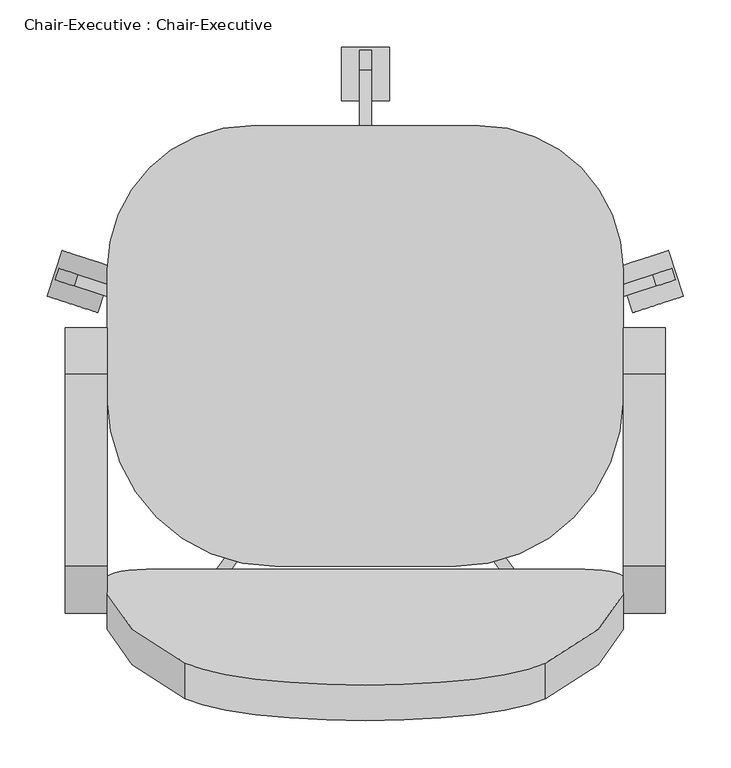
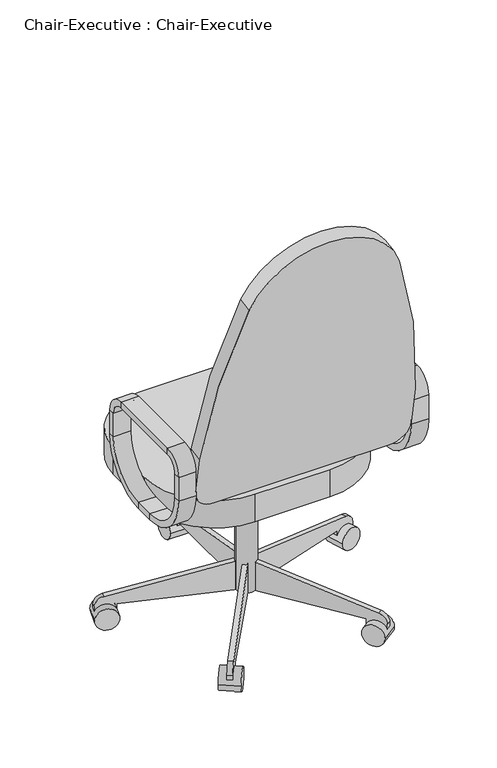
"""IFC4 building model written with IfcOpenShell, lengths in millimetres: furniture geometry, Chair-Executive : Chair-Executive."""

from ifc_helpers import new_model, si_unit, point, frame, frame_2d, origin, place, context, project, spatial, polyline, circle_curve, trimmed, segment, composite_curve, outline, extrude, source, transform, mapped, element, save
from ifc_brep_helpers import plane_surface, cylinder_surface, revolved_surface, advanced_brep


def chair_executive_chair_executive_8d69e98c(model_context):
    return source(origin(), model_context, "Body", "SolidModel", [
        advanced_brep(
        [(-176.5091803, -217.7873012, 546.1), (-176.5091803, -108.0540984, 436.3667972), (-176.5091803, -108.0540984, 420.4917972), (-176.5091803, -233.6623012, 546.1), (-132.0591803, -217.7873012, 546.1), (-132.0591803, -108.0540984, 436.3667972), (-132.0591803, -233.6623012, 546.1), (-132.0591803, -108.0540984, 420.4917972), (-176.5091803, -233.6623012, 609.6), (-176.5091803, -217.7873012, 609.6), (-132.0591803, -217.7873012, 609.6), (-132.0591803, -233.6623012, 609.6), (-176.5091803, -184.2540984, 643.1332028), (-176.5091803, -184.2540984, 659.0082028), (-132.0591803, -184.2540984, 643.1332028), (-132.0591803, -184.2540984, 659.0082028), (-176.5091803, 18.9459016, 659.0082028), (-176.5091803, 18.9459016, 643.1332028), (-132.0591803, 18.9459016, 643.1332028), (-132.0591803, 18.9459016, 659.0082028), (-176.5091803, 52.4791044, 609.6), (-176.5091803, 68.3541044, 609.6), (-132.0591803, 52.4791044, 609.6), (-132.0591803, 68.3541044, 609.6), (-176.5091803, 68.3541044, 546.1), (-176.5091803, 52.4791044, 546.1), (-132.0591803, 52.4791044, 546.1), (-132.0591803, 68.3541044, 546.1), (-176.5091803, -57.2540984, 436.3667972), (-176.5091803, -57.2540984, 420.4917972), (-132.0591803, -57.2540984, 436.3667972), (-132.0591803, -57.2540984, 420.4917972)],
        [
            (0, 1, circle_curve(frame((-176.5091803, -108.0540984, 546.1), z_axis=(1.0, 0.0, 0.0), x_axis=(0.0, 0.0, -1.0)), 109.7332028)),
            (1, 2),
            (2, 3, circle_curve(frame((-176.5091803, -108.0540984, 546.1), z_axis=(-1.0, 0.0, 0.0), x_axis=(0.0, 0.0, -1.0)), 125.6082028)),
            (3, 0),
            (4, 5, circle_curve(frame((-132.0591803, -108.0540984, 546.1), z_axis=(1.0, 0.0, 0.0), x_axis=(0.0, 0.0, -1.0)), 109.7332028)),
            (5, 1),
            (0, 4),
            (6, 7, circle_curve(frame((-132.0591803, -108.0540984, 546.1), z_axis=(1.0, 0.0, 0.0), x_axis=(0.0, 0.0, -1.0)), 125.6082028)),
            (7, 5),
            (4, 6),
            (2, 7),
            (6, 3),
            (3, 8),
            (8, 9),
            (9, 0),
            (9, 10),
            (10, 4),
            (10, 11),
            (11, 6),
            (11, 8),
            (12, 9, circle_curve(frame((-176.5091803, -184.2540984, 609.6), z_axis=(1.0, 0.0, 0.0), x_axis=(0.0, -1.0, 0.0)), 33.5332028)),
            (8, 13, circle_curve(frame((-176.5091803, -184.2540984, 609.6), z_axis=(-1.0, 0.0, 0.0), x_axis=(0.0, -1.0, 0.0)), 49.4082028)),
            (13, 12),
            (14, 10, circle_curve(frame((-132.0591803, -184.2540984, 609.6), z_axis=(1.0, 0.0, 0.0), x_axis=(0.0, -1.0, 0.0)), 33.5332028)),
            (12, 14),
            (15, 11, circle_curve(frame((-132.0591803, -184.2540984, 609.6), z_axis=(1.0, 0.0, 0.0), x_axis=(0.0, -1.0, 0.0)), 49.4082028)),
            (14, 15),
            (15, 13),
            (13, 16),
            (16, 17),
            (17, 12),
            (17, 18),
            (18, 14),
            (18, 19),
            (19, 15),
            (19, 16),
            (20, 17, circle_curve(frame((-176.5091803, 18.9459016, 609.6), z_axis=(1.0, 0.0, 0.0), x_axis=(0.0, 0.0, 1.0)), 33.5332028)),
            (16, 21, circle_curve(frame((-176.5091803, 18.9459016, 609.6), z_axis=(-1.0, 0.0, 0.0), x_axis=(0.0, 0.0, 1.0)), 49.4082028)),
            (21, 20),
            (22, 18, circle_curve(frame((-132.0591803, 18.9459016, 609.6), z_axis=(1.0, 0.0, 0.0), x_axis=(0.0, 0.0, 1.0)), 33.5332028)),
            (20, 22),
            (23, 19, circle_curve(frame((-132.0591803, 18.9459016, 609.6), z_axis=(1.0, 0.0, 0.0), x_axis=(0.0, 0.0, 1.0)), 49.4082028)),
            (22, 23),
            (23, 21),
            (21, 24),
            (24, 25),
            (25, 20),
            (25, 26),
            (26, 22),
            (26, 27),
            (27, 23),
            (27, 24),
            (28, 25, circle_curve(frame((-176.5091803, -57.2540984, 546.1), z_axis=(1.0, 0.0, 0.0), x_axis=(0.0, 1.0, 0.0)), 109.7332028)),
            (24, 29, circle_curve(frame((-176.5091803, -57.2540984, 546.1), z_axis=(-1.0, 0.0, 0.0), x_axis=(0.0, 1.0, 0.0)), 125.6082028)),
            (29, 28),
            (30, 26, circle_curve(frame((-132.0591803, -57.2540984, 546.1), z_axis=(1.0, 0.0, 0.0), x_axis=(0.0, 1.0, 0.0)), 109.7332028)),
            (28, 30),
            (31, 27, circle_curve(frame((-132.0591803, -57.2540984, 546.1), z_axis=(1.0, 0.0, 0.0), x_axis=(0.0, 1.0, 0.0)), 125.6082028)),
            (30, 31),
            (31, 29),
            (29, 2),
            (1, 28),
            (5, 30),
            (7, 31),
        ],
        [
            plane_surface(frame((-176.5091803, -108.0540984, 546.1), z_axis=(-1.0, 0.0, 0.0), x_axis=(0.0, 0.0, -1.0))),
            revolved_surface(polyline([(-176.5091803, -108.0540984, 436.3667972), (-132.0591803, -108.0540984, 436.3667972)]), (-132.0591803, -108.0540984, 546.1), (-1.0, 0.0, 0.0)),
            plane_surface(frame((-132.0591803, -108.0540984, 546.1), z_axis=(1.0, 0.0, 0.0), x_axis=(0.0, 0.0, -1.0))),
            cylinder_surface(frame((-132.0591803, -108.0540984, 546.1), z_axis=(-1.0, 0.0, 0.0), x_axis=(0.0, 0.0, -1.0)), 125.6082028),
            plane_surface(frame((-176.5091803, -233.6623012, 546.1), z_axis=(-1.0, 0.0, 0.0), x_axis=(0.0, 0.0, 1.0))),
            plane_surface(frame((-176.5091803, -217.7873012, 546.1), z_axis=(0.0, 1.0, 0.0), x_axis=(0.0, 0.0, 1.0))),
            plane_surface(frame((-132.0591803, -217.7873012, 546.1), z_axis=(1.0, 0.0, 0.0), x_axis=(0.0, 0.0, 1.0))),
            plane_surface(frame((-132.0591803, -233.6623012, 546.1), z_axis=(0.0, -1.0, 0.0), x_axis=(0.0, 0.0, 1.0))),
            plane_surface(frame((-176.5091803, -184.2540984, 609.6), z_axis=(-1.0, 0.0, 0.0), x_axis=(0.0, -1.0, 0.0))),
            revolved_surface(polyline([(-176.5091803, -217.7873012, 609.6), (-132.0591803, -217.7873012, 609.6)]), (-132.0591803, -184.2540984, 609.6), (-1.0, 0.0, 0.0)),
            plane_surface(frame((-132.0591803, -184.2540984, 609.6), z_axis=(1.0, 0.0, 0.0), x_axis=(0.0, -1.0, 0.0))),
            cylinder_surface(frame((-132.0591803, -184.2540984, 609.6), z_axis=(-1.0, 0.0, 0.0), x_axis=(0.0, -1.0, 0.0)), 49.4082028),
            plane_surface(frame((-176.5091803, -184.2540984, 659.0082028), z_axis=(-1.0, 0.0, 0.0), x_axis=(0.0, 1.0, 0.0))),
            plane_surface(frame((-176.5091803, -184.2540984, 643.1332028), z_axis=(0.0, 0.0, -1.0), x_axis=(0.0, 1.0, 0.0))),
            plane_surface(frame((-132.0591803, -184.2540984, 643.1332028), z_axis=(1.0, 0.0, 0.0), x_axis=(0.0, 1.0, 0.0))),
            plane_surface(frame((-132.0591803, -184.2540984, 659.0082028), z_axis=(0.0, 0.0, 1.0), x_axis=(0.0, 1.0, 0.0))),
            plane_surface(frame((-176.5091803, 18.9459016, 609.6), z_axis=(-1.0, 0.0, 0.0), x_axis=(0.0, 0.0, 1.0))),
            revolved_surface(polyline([(-176.5091803, 18.9459016, 643.1332028), (-132.0591803, 18.9459016, 643.1332028)]), (-132.0591803, 18.9459016, 609.6), (-1.0, 0.0, 0.0)),
            plane_surface(frame((-132.0591803, 18.9459016, 609.6), z_axis=(1.0, 0.0, 0.0), x_axis=(0.0, 0.0, 1.0))),
            cylinder_surface(frame((-132.0591803, 18.9459016, 609.6), z_axis=(-1.0, 0.0, 0.0), x_axis=(0.0, 0.0, 1.0)), 49.4082028),
            plane_surface(frame((-176.5091803, 68.3541044, 609.6), z_axis=(-1.0, 0.0, 0.0), x_axis=(0.0, 0.0, -1.0))),
            plane_surface(frame((-176.5091803, 52.4791044, 609.6), z_axis=(0.0, -1.0, 0.0), x_axis=(0.0, 0.0, -1.0))),
            plane_surface(frame((-132.0591803, 52.4791044, 609.6), z_axis=(1.0, 0.0, 0.0), x_axis=(0.0, 0.0, -1.0))),
            plane_surface(frame((-132.0591803, 68.3541044, 609.6), z_axis=(0.0, 1.0, 0.0), x_axis=(0.0, 0.0, -1.0))),
            plane_surface(frame((-176.5091803, -57.2540984, 546.1), z_axis=(-1.0, 0.0, 0.0), x_axis=(0.0, 1.0, 0.0))),
            revolved_surface(polyline([(-176.5091803, 52.479104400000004, 546.1), (-132.0591803, 52.479104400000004, 546.1)]), (-132.0591803, -57.2540984, 546.1), (-1.0, 0.0, 0.0)),
            plane_surface(frame((-132.0591803, -57.2540984, 546.1), z_axis=(1.0, 0.0, 0.0), x_axis=(0.0, 1.0, 0.0))),
            cylinder_surface(frame((-132.0591803, -57.2540984, 546.1), z_axis=(-1.0, 0.0, 0.0), x_axis=(0.0, 1.0, 0.0)), 125.6082028),
            plane_surface(frame((-176.5091803, -57.2540984, 420.4917972), z_axis=(-1.0, 0.0, 0.0), x_axis=(0.0, -1.0, 0.0))),
            plane_surface(frame((-176.5091803, -57.2540984, 436.3667972), z_axis=(0.0, 0.0, 1.0), x_axis=(0.0, -1.0, 0.0))),
            plane_surface(frame((-132.0591803, -57.2540984, 436.3667972), z_axis=(1.0, 0.0, 0.0), x_axis=(0.0, -1.0, 0.0))),
            plane_surface(frame((-132.0591803, -57.2540984, 420.4917972), z_axis=(0.0, 0.0, -1.0), x_axis=(0.0, -1.0, 0.0))),
        ],
        [
            (0, [[1, 2, 3, 4]]),
            (1, [[5, 6, -1, 7]]),
            (2, [[8, 9, -5, 10]]),
            (3, [[-3, 11, -8, 12]]),
            (4, [[-4, 13, 14, 15]]),
            (5, [[-7, -15, 16, 17]]),
            (6, [[-10, -17, 18, 19]]),
            (7, [[-12, -19, 20, -13]]),
            (8, [[21, -14, 22, 23]]),
            (9, [[24, -16, -21, 25]]),
            (10, [[26, -18, -24, 27]]),
            (11, [[-22, -20, -26, 28]]),
            (12, [[-23, 29, 30, 31]]),
            (13, [[-25, -31, 32, 33]]),
            (14, [[-27, -33, 34, 35]]),
            (15, [[-28, -35, 36, -29]]),
            (16, [[37, -30, 38, 39]]),
            (17, [[40, -32, -37, 41]]),
            (18, [[42, -34, -40, 43]]),
            (19, [[-38, -36, -42, 44]]),
            (20, [[-39, 45, 46, 47]]),
            (21, [[-41, -47, 48, 49]]),
            (22, [[-43, -49, 50, 51]]),
            (23, [[-44, -51, 52, -45]]),
            (24, [[53, -46, 54, 55]]),
            (25, [[56, -48, -53, 57]]),
            (26, [[58, -50, -56, 59]]),
            (27, [[-54, -52, -58, 60]]),
            (28, [[-55, 61, -2, 62]]),
            (29, [[-57, -62, -6, 63]]),
            (30, [[-59, -63, -9, 64]]),
            (31, [[-60, -64, -11, -61]]),
        ],
    ),
        advanced_brep(
        [(414.0408197, -233.6623012, 546.1), (414.0408197, -108.0540984, 420.4917972), (458.4908197, -108.0540984, 420.4917972), (458.4908197, -233.6623012, 546.1), (414.0408197, -217.7873012, 546.1), (414.0408197, -108.0540984, 436.3667972), (458.4908197, -217.7873012, 546.1), (458.4908197, -108.0540984, 436.3667972), (458.4908197, -233.6623012, 609.6), (414.0408197, -233.6623012, 609.6), (414.0408197, -217.7873012, 609.6), (458.4908197, -217.7873012, 609.6), (414.0408197, -184.2540984, 659.0082028), (458.4908197, -184.2540984, 659.0082028), (414.0408197, -184.2540984, 643.1332028), (458.4908197, -184.2540984, 643.1332028), (458.4908197, 18.9459016, 659.0082028), (414.0408197, 18.9459016, 659.0082028), (414.0408197, 18.9459016, 643.1332028), (458.4908197, 18.9459016, 643.1332028), (414.0408197, 68.3541044, 609.6), (458.4908197, 68.3541044, 609.6), (414.0408197, 52.4791044, 609.6), (458.4908197, 52.4791044, 609.6), (458.4908197, 68.3541044, 546.1), (414.0408197, 68.3541044, 546.1), (414.0408197, 52.4791044, 546.1), (458.4908197, 52.4791044, 546.1), (414.0408197, -57.2540984, 420.4917972), (458.4908197, -57.2540984, 420.4917972), (414.0408197, -57.2540984, 436.3667972), (458.4908197, -57.2540984, 436.3667972)],
        [
            (0, 1, circle_curve(frame((414.0408197, -108.0540984, 546.1), z_axis=(1.0, 0.0, 0.0), x_axis=(0.0, 0.0, -1.0)), 125.6082028)),
            (1, 2),
            (2, 3, circle_curve(frame((458.4908197, -108.0540984, 546.1), z_axis=(-1.0, 0.0, 0.0), x_axis=(0.0, 0.0, -1.0)), 125.6082028)),
            (3, 0),
            (4, 5, circle_curve(frame((414.0408197, -108.0540984, 546.1), z_axis=(1.0, 0.0, 0.0), x_axis=(0.0, 0.0, -1.0)), 109.7332028)),
            (5, 1),
            (0, 4),
            (6, 7, circle_curve(frame((458.4908197, -108.0540984, 546.1), z_axis=(1.0, 0.0, 0.0), x_axis=(0.0, 0.0, -1.0)), 109.7332028)),
            (7, 5),
            (4, 6),
            (2, 7),
            (6, 3),
            (3, 8),
            (8, 9),
            (9, 0),
            (9, 10),
            (10, 4),
            (10, 11),
            (11, 6),
            (11, 8),
            (12, 9, circle_curve(frame((414.0408197, -184.2540984, 609.6), z_axis=(1.0, 0.0, 0.0), x_axis=(0.0, -1.0, 0.0)), 49.4082028)),
            (8, 13, circle_curve(frame((458.4908197, -184.2540984, 609.6), z_axis=(-1.0, 0.0, 0.0), x_axis=(0.0, -1.0, 0.0)), 49.4082028)),
            (13, 12),
            (14, 10, circle_curve(frame((414.0408197, -184.2540984, 609.6), z_axis=(1.0, 0.0, 0.0), x_axis=(0.0, -1.0, 0.0)), 33.5332028)),
            (12, 14),
            (15, 11, circle_curve(frame((458.4908197, -184.2540984, 609.6), z_axis=(1.0, 0.0, 0.0), x_axis=(0.0, -1.0, 0.0)), 33.5332028)),
            (14, 15),
            (15, 13),
            (13, 16),
            (16, 17),
            (17, 12),
            (17, 18),
            (18, 14),
            (18, 19),
            (19, 15),
            (19, 16),
            (20, 17, circle_curve(frame((414.0408197, 18.9459016, 609.6), z_axis=(1.0, 0.0, 0.0), x_axis=(0.0, 0.0, 1.0)), 49.4082028)),
            (16, 21, circle_curve(frame((458.4908197, 18.9459016, 609.6), z_axis=(-1.0, 0.0, 0.0), x_axis=(0.0, 0.0, 1.0)), 49.4082028)),
            (21, 20),
            (22, 18, circle_curve(frame((414.0408197, 18.9459016, 609.6), z_axis=(1.0, 0.0, 0.0), x_axis=(0.0, 0.0, 1.0)), 33.5332028)),
            (20, 22),
            (23, 19, circle_curve(frame((458.4908197, 18.9459016, 609.6), z_axis=(1.0, 0.0, 0.0), x_axis=(0.0, 0.0, 1.0)), 33.5332028)),
            (22, 23),
            (23, 21),
            (21, 24),
            (24, 25),
            (25, 20),
            (25, 26),
            (26, 22),
            (26, 27),
            (27, 23),
            (27, 24),
            (28, 25, circle_curve(frame((414.0408197, -57.2540984, 546.1), z_axis=(1.0, 0.0, 0.0), x_axis=(0.0, 1.0, 0.0)), 125.6082028)),
            (24, 29, circle_curve(frame((458.4908197, -57.2540984, 546.1), z_axis=(-1.0, 0.0, 0.0), x_axis=(0.0, 1.0, 0.0)), 125.6082028)),
            (29, 28),
            (30, 26, circle_curve(frame((414.0408197, -57.2540984, 546.1), z_axis=(1.0, 0.0, 0.0), x_axis=(0.0, 1.0, 0.0)), 109.7332028)),
            (28, 30),
            (31, 27, circle_curve(frame((458.4908197, -57.2540984, 546.1), z_axis=(1.0, 0.0, 0.0), x_axis=(0.0, 1.0, 0.0)), 109.7332028)),
            (30, 31),
            (31, 29),
            (29, 2),
            (1, 28),
            (5, 30),
            (7, 31),
        ],
        [
            cylinder_surface(frame((414.0408197, -108.0540984, 546.1), z_axis=(-1.0, 0.0, 0.0), x_axis=(0.0, 0.0, -1.0)), 125.6082028),
            plane_surface(frame((414.0408197, -108.0540984, 546.1), z_axis=(-1.0, 0.0, 0.0), x_axis=(0.0, 0.0, -1.0))),
            revolved_surface(polyline([(414.0408197, -108.0540984, 436.3667972), (458.4908197, -108.0540984, 436.3667972)]), (414.0408197, -108.0540984, 546.1), (-1.0, 0.0, 0.0)),
            plane_surface(frame((458.4908197, -108.0540984, 546.1), z_axis=(1.0, 0.0, 0.0), x_axis=(0.0, 0.0, -1.0))),
            plane_surface(frame((458.4908197, -233.6623012, 546.1), z_axis=(0.0, -1.0, 0.0), x_axis=(0.0, 0.0, 1.0))),
            plane_surface(frame((414.0408197, -233.6623012, 546.1), z_axis=(-1.0, 0.0, 0.0), x_axis=(0.0, 0.0, 1.0))),
            plane_surface(frame((414.0408197, -217.7873012, 546.1), z_axis=(0.0, 1.0, 0.0), x_axis=(0.0, 0.0, 1.0))),
            plane_surface(frame((458.4908197, -217.7873012, 546.1), z_axis=(1.0, 0.0, 0.0), x_axis=(0.0, 0.0, 1.0))),
            cylinder_surface(frame((414.0408197, -184.2540984, 609.6), z_axis=(-1.0, 0.0, 0.0), x_axis=(0.0, -1.0, 0.0)), 49.4082028),
            plane_surface(frame((414.0408197, -184.2540984, 609.6), z_axis=(-1.0, 0.0, 0.0), x_axis=(0.0, -1.0, 0.0))),
            revolved_surface(polyline([(414.0408197, -217.7873012, 609.6), (458.4908197, -217.7873012, 609.6)]), (414.0408197, -184.2540984, 609.6), (-1.0, 0.0, 0.0)),
            plane_surface(frame((458.4908197, -184.2540984, 609.6), z_axis=(1.0, 0.0, 0.0), x_axis=(0.0, -1.0, 0.0))),
            plane_surface(frame((458.4908197, -184.2540984, 659.0082028), z_axis=(0.0, 0.0, 1.0), x_axis=(0.0, 1.0, 0.0))),
            plane_surface(frame((414.0408197, -184.2540984, 659.0082028), z_axis=(-1.0, 0.0, 0.0), x_axis=(0.0, 1.0, 0.0))),
            plane_surface(frame((414.0408197, -184.2540984, 643.1332028), z_axis=(0.0, 0.0, -1.0), x_axis=(0.0, 1.0, 0.0))),
            plane_surface(frame((458.4908197, -184.2540984, 643.1332028), z_axis=(1.0, 0.0, 0.0), x_axis=(0.0, 1.0, 0.0))),
            cylinder_surface(frame((414.0408197, 18.9459016, 609.6), z_axis=(-1.0, 0.0, 0.0), x_axis=(0.0, 0.0, 1.0)), 49.4082028),
            plane_surface(frame((414.0408197, 18.9459016, 609.6), z_axis=(-1.0, 0.0, 0.0), x_axis=(0.0, 0.0, 1.0))),
            revolved_surface(polyline([(414.0408197, 18.9459016, 643.1332028), (458.4908197, 18.9459016, 643.1332028)]), (414.0408197, 18.9459016, 609.6), (-1.0, 0.0, 0.0)),
            plane_surface(frame((458.4908197, 18.9459016, 609.6), z_axis=(1.0, 0.0, 0.0), x_axis=(0.0, 0.0, 1.0))),
            plane_surface(frame((458.4908197, 68.3541044, 609.6), z_axis=(0.0, 1.0, 0.0), x_axis=(0.0, 0.0, -1.0))),
            plane_surface(frame((414.0408197, 68.3541044, 609.6), z_axis=(-1.0, 0.0, 0.0), x_axis=(0.0, 0.0, -1.0))),
            plane_surface(frame((414.0408197, 52.4791044, 609.6), z_axis=(0.0, -1.0, 0.0), x_axis=(0.0, 0.0, -1.0))),
            plane_surface(frame((458.4908197, 52.4791044, 609.6), z_axis=(1.0, 0.0, 0.0), x_axis=(0.0, 0.0, -1.0))),
            cylinder_surface(frame((414.0408197, -57.2540984, 546.1), z_axis=(-1.0, 0.0, 0.0), x_axis=(0.0, 1.0, 0.0)), 125.6082028),
            plane_surface(frame((414.0408197, -57.2540984, 546.1), z_axis=(-1.0, 0.0, 0.0), x_axis=(0.0, 1.0, 0.0))),
            revolved_surface(polyline([(414.0408197, 52.479104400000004, 546.1), (458.4908197, 52.479104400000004, 546.1)]), (414.0408197, -57.2540984, 546.1), (-1.0, 0.0, 0.0)),
            plane_surface(frame((458.4908197, -57.2540984, 546.1), z_axis=(1.0, 0.0, 0.0), x_axis=(0.0, 1.0, 0.0))),
            plane_surface(frame((458.4908197, -57.2540984, 420.4917972), z_axis=(0.0, 0.0, -1.0), x_axis=(0.0, -1.0, 0.0))),
            plane_surface(frame((414.0408197, -57.2540984, 420.4917972), z_axis=(-1.0, 0.0, 0.0), x_axis=(0.0, -1.0, 0.0))),
            plane_surface(frame((414.0408197, -57.2540984, 436.3667972), z_axis=(0.0, 0.0, 1.0), x_axis=(0.0, -1.0, 0.0))),
            plane_surface(frame((458.4908197, -57.2540984, 436.3667972), z_axis=(1.0, 0.0, 0.0), x_axis=(0.0, -1.0, 0.0))),
        ],
        [
            (0, [[1, 2, 3, 4]]),
            (1, [[5, 6, -1, 7]]),
            (2, [[8, 9, -5, 10]]),
            (3, [[-3, 11, -8, 12]]),
            (4, [[-4, 13, 14, 15]]),
            (5, [[-7, -15, 16, 17]]),
            (6, [[-10, -17, 18, 19]]),
            (7, [[-12, -19, 20, -13]]),
            (8, [[21, -14, 22, 23]]),
            (9, [[24, -16, -21, 25]]),
            (10, [[26, -18, -24, 27]]),
            (11, [[-22, -20, -26, 28]]),
            (12, [[-23, 29, 30, 31]]),
            (13, [[-25, -31, 32, 33]]),
            (14, [[-27, -33, 34, 35]]),
            (15, [[-28, -35, 36, -29]]),
            (16, [[37, -30, 38, 39]]),
            (17, [[40, -32, -37, 41]]),
            (18, [[42, -34, -40, 43]]),
            (19, [[-38, -36, -42, 44]]),
            (20, [[-39, 45, 46, 47]]),
            (21, [[-41, -47, 48, 49]]),
            (22, [[-43, -49, 50, 51]]),
            (23, [[-44, -51, 52, -45]]),
            (24, [[53, -46, 54, 55]]),
            (25, [[56, -48, -53, 57]]),
            (26, [[58, -50, -56, 59]]),
            (27, [[-54, -52, -58, 60]]),
            (28, [[-55, 61, -2, 62]]),
            (29, [[-57, -62, -6, 63]]),
            (30, [[-59, -63, -9, 64]]),
            (31, [[-60, -64, -11, -61]]),
        ],
    ),
        extrude(outline(composite_curve([segment(trimmed(circle_curve(frame_2d((0.0, -50.8)), 50.8), [point((0.0, 0.0))], [point((50.8, -50.8))], False, "CARTESIAN"), True, "CONTINUOUS"), segment(polyline([(50.8, -50.8), (50.8, -152.4)]), True, "CONTINUOUS"), segment(trimmed(circle_curve(frame_2d((-1471.2021854, -74.3913617)), 1524.0), [point((50.8, -152.4))], [point((-31.75, -574.9444618))], False, "CARTESIAN"), True, "CONTINUOUS"), segment(trimmed(circle_curve(frame_2d((-222.25, -504.2338544)), 203.2), [point((-31.75, -574.9444618))], [point((-412.75, -574.9444618))], False, "CARTESIAN"), True, "CONTINUOUS"), segment(trimmed(circle_curve(frame_2d((1026.7021854, -74.3913617)), 1524.0), [point((-412.75, -574.9444618))], [point((-495.3, -152.4))], False, "CARTESIAN"), True, "CONTINUOUS"), segment(polyline([(-495.3, -152.4), (-495.3, -50.8)]), True, "CONTINUOUS"), segment(trimmed(circle_curve(frame_2d((-444.5, -50.8)), 50.8), [point((-495.3, -50.8))], [point((-444.5, 0.0))], False, "CARTESIAN"), True, "CONTINUOUS"), segment(polyline([(-444.5, 0.0), (0.0, 0.0)]), True, "CONTINUOUS")], self_intersect=False)), frame((363.2408197, -224.5698964, 503.1641822), z_axis=(0.0, 0.9848077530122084, 0.17364817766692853), x_axis=(1.0, 0.0, 0.0)), (0.0, 0.0, 1.0), 38.1),
        extrude(outline(composite_curve([segment(trimmed(circle_curve(frame_2d((20.3408197, 129.4961016)), 152.4), [point((-132.0591803, 129.4961016))], [point((20.3408197, 281.8961016))], False, "CARTESIAN"), True, "CONTINUOUS"), segment(polyline([(20.3408197, 281.8961016), (261.6408197, 281.8961016)]), True, "CONTINUOUS"), segment(trimmed(circle_curve(frame_2d((261.6408197, 129.4961016)), 152.4), [point((261.6408197, 281.8961016))], [point((414.0408197, 129.4961016))], False, "CARTESIAN"), True, "CONTINUOUS"), segment(polyline([(414.0408197, 129.4961016), (414.0408197, -6.4540984)]), True, "CONTINUOUS"), segment(trimmed(circle_curve(frame_2d((236.2408197, -6.4540984)), 177.8), [point((414.0408197, -6.4540984))], [point((236.2408197, -184.2540984))], False, "CARTESIAN"), True, "CONTINUOUS"), segment(polyline([(236.2408197, -184.2540984), (45.7408197, -184.2540984)]), True, "CONTINUOUS"), segment(trimmed(circle_curve(frame_2d((45.7408197, -6.4540984)), 177.8), [point((45.7408197, -184.2540984))], [point((-132.0591803, -6.4540984))], False, "CARTESIAN"), True, "CONTINUOUS"), segment(polyline([(-132.0591803, -6.4540984), (-132.0591803, 129.4961016)]), True, "CONTINUOUS")], self_intersect=False)), frame((0.0, 0.0, 383.7835944), z_axis=(0.0, 0.0, 1.0), x_axis=(1.0, 0.0, 0.0)), (0.0, 0.0, 1.0), 73.4164056),
        extrude(outline(composite_curve([segment(trimmed(circle_curve(frame_2d((140.9908197, 18.9459016)), 25.4), [point((115.5908197, 18.9459016))], [point((166.3908197, 18.9459016))], False, "CARTESIAN"), True, "CONTINUOUS"), segment(trimmed(circle_curve(frame_2d((140.9908197, 18.9459016)), 25.4), [point((166.3908197, 18.9459016))], [point((115.5908197, 18.9459016))], False, "CARTESIAN"), True, "CONTINUOUS")], self_intersect=False)), frame((0.0, 0.0, 53.5835944), z_axis=(0.0, 0.0, 1.0), x_axis=(1.0, 0.0, 0.0)), (0.0, 0.0, 1.0), 330.5914056),
        extrude(outline(composite_curve([segment(trimmed(circle_curve(frame_2d((0.0, -28.2002727)), 28.2002727), [point((0.0, -56.4005455))], [point((0.0, 0.0))], False, "CARTESIAN"), True, "CONTINUOUS"), segment(trimmed(circle_curve(frame_2d((0.0, -28.2002727)), 28.2002727), [point((0.0, 0.0))], [point((0.0, -56.4005455))], False, "CARTESIAN"), True, "CONTINUOUS")], self_intersect=False)), frame((477.6203484, 101.6163254, 28.1835944), z_axis=(-0.3090169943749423, 0.9510565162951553, 0.0), x_axis=(0.0, 0.0, 1.0)), (0.0, 0.0, 1.0), 50.8),
        extrude(outline(composite_curve([segment(polyline([(-25.4, 0.0), (0.0, 0.0), (0.0, -50.8), (-24.303053, -50.8)]), True, "CONTINUOUS"), segment(trimmed(circle_curve(frame_2d((-24.303053, -25.4)), 25.4), [point((-24.303053, -50.8))], [point((-49.3171699, -29.8106637))], False, "CARTESIAN"), True, "CONTINUOUS"), segment(polyline([(-49.3171699, -29.8106637), (-101.6, 266.7), (-101.6, 292.1), (-25.4, 292.1), (-25.4, 0.0)]), True, "CONTINUOUS")], self_intersect=False)), frame((420.756686, 103.1705568, 28.1835944), z_axis=(-0.3090169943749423, 0.9510565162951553, 0.0), x_axis=(0.0, 0.0, -1.0)), (0.0, 0.0, 1.0), 12.7),
        extrude(outline(composite_curve([segment(trimmed(circle_curve(frame_2d((0.0, -28.2002727)), 28.2002727), [point((0.0, -56.4005455))], [point((0.0, 0.0))], False, "CARTESIAN"), True, "CONTINUOUS"), segment(trimmed(circle_curve(frame_2d((0.0, -28.2002727)), 28.2002727), [point((0.0, 0.0))], [point((0.0, -56.4005455))], False, "CARTESIAN"), True, "CONTINUOUS")], self_intersect=False)), frame((323.63931, -275.6612394, 28.1835944), z_axis=(0.8090169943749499, 0.5877852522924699, 0.0), x_axis=(0.0, 0.0, 1.0)), (0.0, 0.0, 1.0), 50.8),
        extrude(outline(composite_curve([segment(polyline([(-25.4, 0.0), (0.0, 0.0), (0.0, -50.8), (-24.303053, -50.8)]), True, "CONTINUOUS"), segment(trimmed(circle_curve(frame_2d((-24.303053, -25.3999999)), 25.4), [point((-24.303053, -50.8))], [point((-49.3171699, -29.8106636))], False, "CARTESIAN"), True, "CONTINUOUS"), segment(polyline([(-49.3171699, -29.8106636), (-101.6, 266.7), (-101.6, 292.1), (-25.4, 292.1), (-25.4, 0.0)]), True, "CONTINUOUS")], self_intersect=False)), frame((307.545634, -221.1003988, 28.1835944), z_axis=(0.8090169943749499, 0.5877852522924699, 0.0), x_axis=(0.0, 0.0, -1.0)), (0.0, 0.0, 1.0), 12.7),
        extrude(outline(composite_curve([segment(trimmed(circle_curve(frame_2d((0.0, -28.2002727)), 28.2002727), [point((0.0, -56.4005455))], [point((0.0, 0.0))], False, "CARTESIAN"), True, "CONTINUOUS"), segment(trimmed(circle_curve(frame_2d((0.0, -28.2002727)), 28.2002727), [point((0.0, 0.0))], [point((0.0, -56.4005455))], False, "CARTESIAN"), True, "CONTINUOUS")], self_intersect=False)), frame((-41.6576707, -275.6612394, 28.1835944), z_axis=(-0.8090169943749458, 0.5877852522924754, 0.0), x_axis=(0.0, 0.0, -1.0)), (0.0, 0.0, 1.0), 50.8),
        extrude(outline(composite_curve([segment(polyline([(25.4, 0.0), (25.4, 292.1), (101.6, 292.1), (101.6, 266.7), (49.3171699, -29.8106637)]), True, "CONTINUOUS"), segment(trimmed(circle_curve(frame_2d((24.303053, -25.3999999)), 25.4), [point((49.3171699, -29.8106637))], [point((24.303053, -50.8))], False, "CARTESIAN"), True, "CONTINUOUS"), segment(polyline([(24.303053, -50.8), (0.0, -50.8), (0.0, 0.0), (25.4, 0.0)]), True, "CONTINUOUS")], self_intersect=False)), frame((-25.5639946, -221.1003988, 28.1835944), z_axis=(-0.8090169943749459, 0.5877852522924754, 0.0), x_axis=(0.0, 0.0, 1.0)), (0.0, 0.0, 1.0), 12.7),
        extrude(outline(composite_curve([segment(trimmed(circle_curve(frame_2d((0.0, -28.2002727)), 28.2002727), [point((0.0, -56.4005454))], [point((0.0, 0.0))], False, "CARTESIAN"), True, "CONTINUOUS"), segment(trimmed(circle_curve(frame_2d((0.0, -28.2002727)), 28.2002727), [point((0.0, 0.0))], [point((0.0, -56.4005454))], False, "CARTESIAN"), True, "CONTINUOUS")], self_intersect=False)), frame((-195.638709, 101.6163254, 28.1835944), z_axis=(0.3090169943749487, 0.9510565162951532, 0.0), x_axis=(0.0, 0.0, -1.0)), (0.0, 0.0, 1.0), 50.8),
        extrude(outline(composite_curve([segment(polyline([(25.4, 0.0), (25.4, 292.1000001), (101.6, 292.1000001), (101.6, 266.7), (49.3171699, -29.8106636)]), True, "CONTINUOUS"), segment(trimmed(circle_curve(frame_2d((24.303053, -25.4)), 25.4), [point((49.3171699, -29.8106636))], [point((24.303053, -50.8))], False, "CARTESIAN"), True, "CONTINUOUS"), segment(polyline([(24.303053, -50.8), (0.0, -50.8), (0.0, 0.0), (25.4, 0.0)]), True, "CONTINUOUS")], self_intersect=False)), frame((-138.7750467, 103.1705568, 28.1835944), z_axis=(0.3090169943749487, 0.9510565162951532, 0.0), x_axis=(0.0, 0.0, 1.0)), (0.0, 0.0, 1.0), 12.7),
        extrude(outline(composite_curve([segment(trimmed(circle_curve(frame_2d((336.4459016, 28.1835944)), 28.2002727), [point((308.2456289, 28.1835944))], [point((364.6461744, 28.1835944))], False, "CARTESIAN"), True, "CONTINUOUS"), segment(trimmed(circle_curve(frame_2d((336.4459016, 28.1835944)), 28.2002727), [point((364.6461744, 28.1835944))], [point((308.2456289, 28.1835944))], False, "CARTESIAN"), True, "CONTINUOUS")], self_intersect=False)), frame((115.5908197, 0.0, 0.0), z_axis=(1.0, 0.0, 0.0), x_axis=(0.0, 1.0, 0.0)), (0.0, 0.0, 1.0), 50.8),
        extrude(outline(composite_curve([segment(polyline([(311.0459016, 53.5835944), (18.9459016, 53.5835944), (18.9459016, 129.7835944), (44.3459016, 129.7835944), (340.8565654, 77.5007643)]), True, "CONTINUOUS"), segment(trimmed(circle_curve(frame_2d((336.4459016, 52.4866474)), 25.4), [point((340.8565654, 77.5007643))], [point((361.8459016, 52.4866474))], False, "CARTESIAN"), True, "CONTINUOUS"), segment(polyline([(361.8459016, 52.4866474), (361.8459016, 28.1835944), (311.0459016, 28.1835944), (311.0459016, 53.5835944)]), True, "CONTINUOUS")], self_intersect=False)), frame((134.6408197, 0.0, 0.0), z_axis=(1.0, 0.0, 0.0), x_axis=(0.0, 1.0, 0.0)), (0.0, 0.0, 1.0), 12.7),
        extrude(outline(polyline([(69.7459016, 383.7835944), (69.7459016, 371.0835944), (18.9459016, 283.0954134), (-19.1540984, 283.0954134), (-19.1540984, 383.7835944), (69.7459016, 383.7835944)])), frame((90.1908197, 0.0, 0.0), z_axis=(1.0, 0.0, 0.0), x_axis=(0.0, 1.0, 0.0)), (0.0, 0.0, 1.0), 101.6),
    ])


if __name__ == "__main__":
    model = new_model("IFC4")
    model_context = context("Model", 3, world=origin())
    ifc_project = project(units=[si_unit("LENGTHUNIT", "METRE", prefix="MILLI")], contexts=[model_context])
    site = spatial("IfcSite", under=ifc_project)
    building = spatial("IfcBuilding", under=site)
    placement = place(None, origin())
    chair_executive_chair_executive_shape = chair_executive_chair_executive_8d69e98c(model_context)
    element("IfcFurniture", 1, ObjectType="Chair-Executive : Chair-Executive", at=placement, inside=building, context=model_context, shape_type="MappedRepresentation", body=[
        mapped(chair_executive_chair_executive_shape, transform((0.0, 0.0, 0.0), x_axis=(1.0, 0.0, 0.0), y_axis=(0.0, 1.0, 0.0), z_axis=(0.0, 0.0, 1.0))),
    ])
    save(model, "model.ifc")
